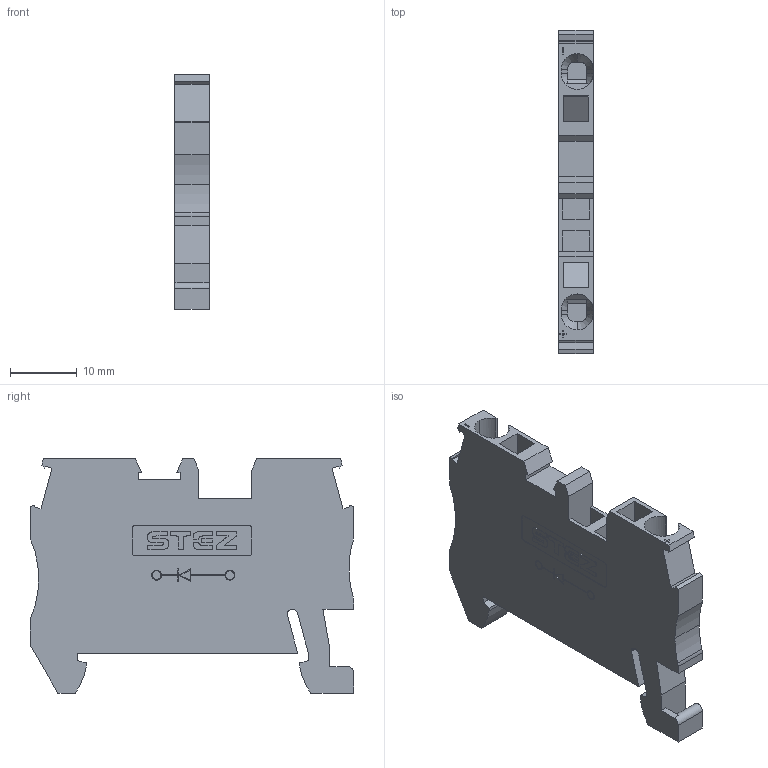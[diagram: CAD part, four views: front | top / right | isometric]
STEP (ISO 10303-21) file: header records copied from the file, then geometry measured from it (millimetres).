
FILE_DESCRIPTION(('TFLEX Exchange Step'),'2;1');
FILE_NAME('10200080 КНЗ 2,5-2-Д Л-П.stp', '2024-02-26T13:48:57+03:00',('APolyakov'),('Unknown organisation'),'TFLEX Exchange 2023.2','T-FLEX CAD','Unknown authorisation');
FILE_SCHEMA( ('AUTOMOTIVE_DESIGN { 1 0 10303 214 1 1 1 1 }') );
Length unit declared in the file: millimetre
Products named in the file (1): Тело_1:1
Bounding box: 5.15 x 48.6 x 35.25 mm (x, y, z)
Volume: 5931.9 mm3; surface area: 4733 mm2
Topology: 1 solids, 1 shells, 406 faces, 1159 edges, 770 vertices
Faces by surface type: plane 199, cylinder 199, cone 8
Entity records: 13778 total; most frequent: CARTESIAN_POINT 2997, ORIENTED_EDGE 2318, DIRECTION 2243, EDGE_CURVE 1159, AXIS2_PLACEMENT_3D 802, VERTEX_POINT 770, VECTOR 639, LINE 639
